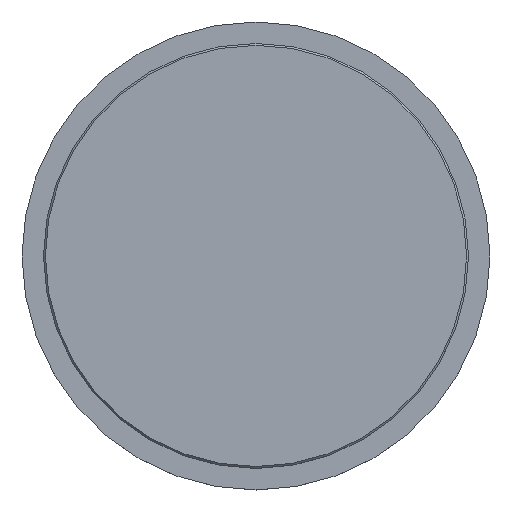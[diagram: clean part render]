
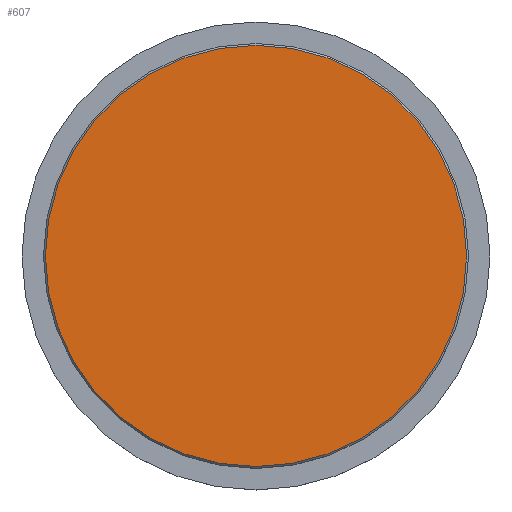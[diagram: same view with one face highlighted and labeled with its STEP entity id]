
A CAD part, top view. The second image highlights one B-rep face of the part: STEP entity #607.
In plain terms, the highlighted planar face has unit normal (0, 0, 1).
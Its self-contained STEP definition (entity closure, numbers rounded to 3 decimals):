
#471=FACE_OUTER_BOUND('',#766,.T.);
#491=PLANE('',#1473);
#607=ADVANCED_FACE('',(#471),#491,.T.);
#766=EDGE_LOOP('',(#1062));
#1062=ORIENTED_EDGE('',*,*,#1354,.T.);
#1206=VERTEX_POINT('',#2453);
#1354=EDGE_CURVE('',#1206,#1206,#1392,.T.);
#1392=CIRCLE('',#1472,11.25);
#1472=AXIS2_PLACEMENT_3D('',#2452,#1684,#1685);
#1473=AXIS2_PLACEMENT_3D('',#2454,#1686,#1687);
#1684=DIRECTION('',(0.,0.,1.));
#1685=DIRECTION('',(1.,0.,0.));
#1686=DIRECTION('',(0.,0.,1.));
#1687=DIRECTION('',(1.,0.,0.));
#2452=CARTESIAN_POINT('',(0.,0.,0.3));
#2453=CARTESIAN_POINT('',(11.25,0.,0.3));
#2454=CARTESIAN_POINT('',(0.,0.,0.3));
